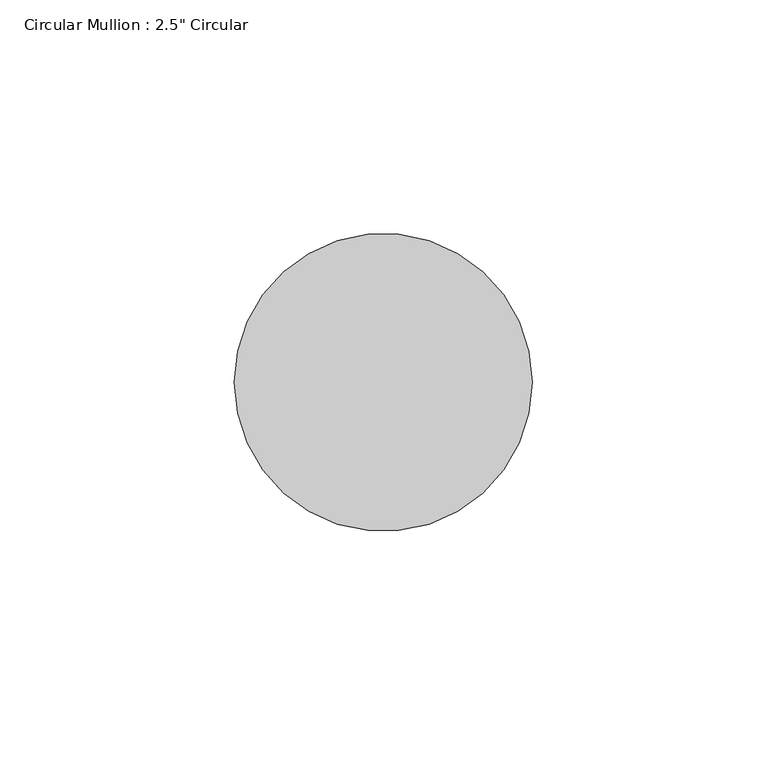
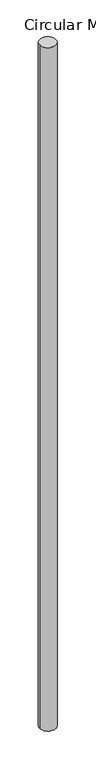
"""IFC4 building model written with IfcOpenShell, lengths in millimetres: member geometry."""

from ifc_helpers import new_model, si_unit, point, frame, origin, origin_2d, place, context, project, spatial, circle_curve, trimmed, segment, composite_curve, outline, extrude, source, transform, mapped, element, save


def member_a09d0bad(model_context):
    return source(origin(), model_context, "Body", "SweptSolid", [
        extrude(outline(composite_curve([segment(trimmed(circle_curve(origin_2d(), 31.75), [point((31.75, 0.0))], [point((-31.75, 0.0))], False, "CARTESIAN"), True, "CONTINUOUS"), segment(trimmed(circle_curve(origin_2d(), 31.75), [point((-31.75, 0.0))], [point((31.75, 0.0))], False, "CARTESIAN"), True, "CONTINUOUS")], self_intersect=False)), frame((0.0, 0.0, -2806.1160501), z_axis=(0.0, 0.0, 1.0), x_axis=(1.0, 0.0, 0.0)), (0.0, 0.0, 1.0), 2806.1160501),
    ])


if __name__ == "__main__":
    model = new_model("IFC4")
    model_context = context("Model", 3, world=origin())
    ifc_project = project(units=[si_unit("LENGTHUNIT", "METRE", prefix="MILLI")], contexts=[model_context])
    site = spatial("IfcSite", under=ifc_project)
    building = spatial("IfcBuilding", under=site)
    placement = place(None, origin())
    member_shape = member_a09d0bad(model_context)
    element("IfcMember", 1, ObjectType="Circular Mullion : 2.5\" Circular", at=placement, inside=building, context=model_context, shape_type="MappedRepresentation", body=[
        mapped(member_shape, transform((0.0, 0.0, 0.0), x_axis=(1.0, 0.0, 0.0), y_axis=(0.0, 1.0, 0.0), z_axis=(0.0, 0.0, 1.0))),
    ])
    save(model, "model.ifc")
